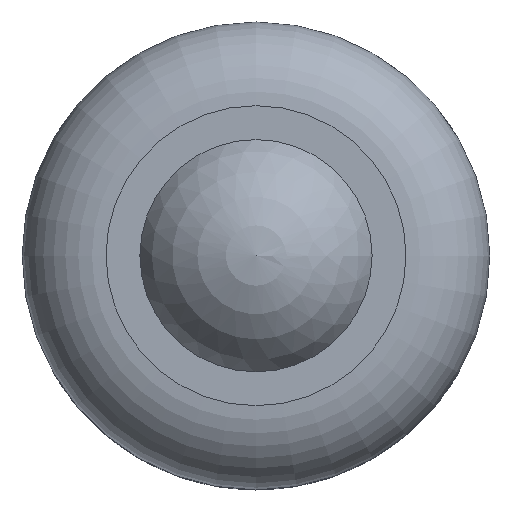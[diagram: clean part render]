
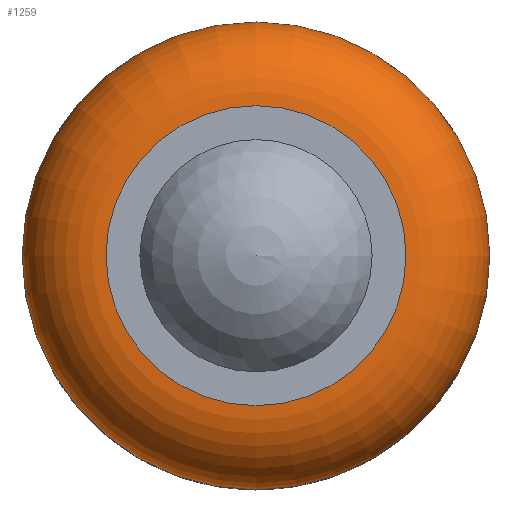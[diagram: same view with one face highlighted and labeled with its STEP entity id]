
A CAD part, top view. The second image highlights one B-rep face of the part: STEP entity #1259.
In plain terms, the highlighted toroidal (fillet/blend) face has major radius 9.3 mm and minor radius 5.2 mm.
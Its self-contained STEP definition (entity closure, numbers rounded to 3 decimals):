
#14=TOROIDAL_SURFACE('',#1397,9.3,5.2);
#274=FACE_BOUND('',#445,.T.);
#355=FACE_OUTER_BOUND('',#444,.T.);
#444=EDGE_LOOP('',(#1093));
#445=EDGE_LOOP('',(#1094));
#456=CIRCLE('',#1280,14.5);
#460=CIRCLE('',#1287,9.3);
#537=VERTEX_POINT('',#1828);
#541=VERTEX_POINT('',#1839);
#651=EDGE_CURVE('',#537,#537,#456,.T.);
#655=EDGE_CURVE('',#541,#541,#460,.T.);
#1093=ORIENTED_EDGE('',*,*,#651,.F.);
#1094=ORIENTED_EDGE('',*,*,#655,.T.);
#1259=ADVANCED_FACE('',(#355,#274),#14,.T.);
#1280=AXIS2_PLACEMENT_3D('',#1829,#1452,#1453);
#1287=AXIS2_PLACEMENT_3D('',#1840,#1466,#1467);
#1397=AXIS2_PLACEMENT_3D('',#2112,#1764,#1765);
#1452=DIRECTION('center_axis',(0.,0.,-1.));
#1453=DIRECTION('ref_axis',(0.,1.,0.));
#1466=DIRECTION('center_axis',(0.,0.,-1.));
#1467=DIRECTION('ref_axis',(0.,1.,0.));
#1764=DIRECTION('center_axis',(0.,0.,-1.));
#1765=DIRECTION('ref_axis',(-1.,0.,0.));
#1828=CARTESIAN_POINT('',(0.,14.5,10.8));
#1829=CARTESIAN_POINT('Origin',(0.,0.,10.8));
#1839=CARTESIAN_POINT('',(0.,9.3,16.));
#1840=CARTESIAN_POINT('Origin',(0.,0.,16.));
#2112=CARTESIAN_POINT('Origin',(0.,0.,10.8));
